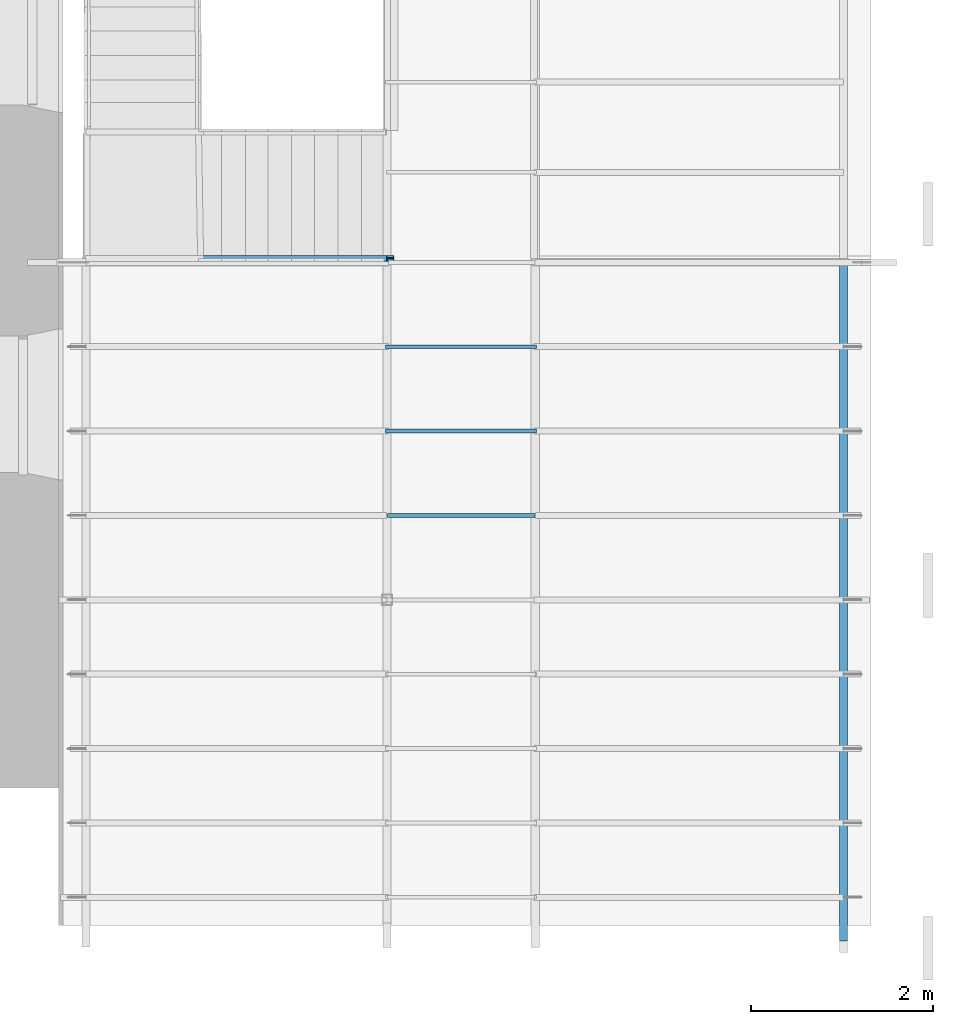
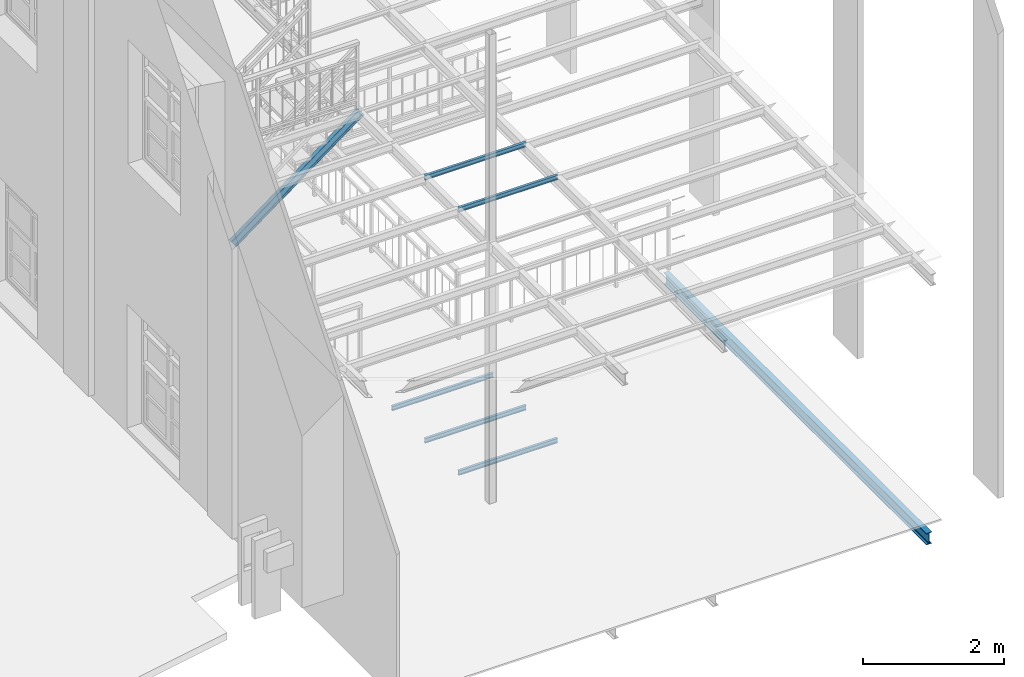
# One storey, part 7 of 33: 7 beams.
"""IFC2X3 building model written with IfcOpenShell, lengths in metres."""

from ifc_helpers import new_model, entity, si_unit, converted_unit, derived_unit, direction, frame, frame_2d, origin, place, context, subcontext, project, spatial, polyline, circle_curve, parameter, trimmed, segment, composite_curve, outline, extrude, material, type_object, element, save


model = new_model("IFC2X3")

# Units and contexts
model_context = context("Model", 3, precision=1e-05, world=origin(), true_north=direction((6.12303176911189e-17, 1.0)))
body_context = subcontext(model_context, "Body", "Model", "MODEL_VIEW")
ifc_project = project(units=[si_unit("LENGTHUNIT", "METRE"), si_unit("AREAUNIT", "SQUARE_METRE"), si_unit("VOLUMEUNIT", "CUBIC_METRE"), converted_unit("PLANEANGLEUNIT", "DEGREE", entity("IfcRatioMeasure", 0.0174532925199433), si_unit("PLANEANGLEUNIT", "RADIAN"), dimensions=[0, 0, 0, 0, 0, 0, 0]), si_unit("MASSUNIT", "GRAM", prefix="KILO"), derived_unit("MASSDENSITYUNIT", [(si_unit("MASSUNIT", "GRAM", prefix="KILO"), 1), (si_unit("LENGTHUNIT", "METRE"), -3)]), derived_unit("MOMENTOFINERTIAUNIT", [(si_unit("LENGTHUNIT", "METRE"), 4)]), si_unit("TIMEUNIT", "SECOND"), si_unit("FREQUENCYUNIT", "HERTZ"), si_unit("THERMODYNAMICTEMPERATUREUNIT", "DEGREE_CELSIUS"), derived_unit("THERMALTRANSMITTANCEUNIT", [(si_unit("MASSUNIT", "GRAM", prefix="KILO"), 1), (si_unit("THERMODYNAMICTEMPERATUREUNIT", "KELVIN"), -1), (si_unit("TIMEUNIT", "SECOND"), -3)]), derived_unit("VOLUMETRICFLOWRATEUNIT", [(si_unit("LENGTHUNIT", "METRE"), 3), (si_unit("TIMEUNIT", "SECOND"), -1)]), si_unit("ELECTRICCURRENTUNIT", "AMPERE"), si_unit("ELECTRICVOLTAGEUNIT", "VOLT"), si_unit("POWERUNIT", "WATT"), si_unit("FORCEUNIT", "NEWTON", prefix="KILO"), si_unit("ILLUMINANCEUNIT", "LUX"), si_unit("LUMINOUSFLUXUNIT", "LUMEN"), si_unit("LUMINOUSINTENSITYUNIT", "CANDELA"), derived_unit("USERDEFINED", [(si_unit("MASSUNIT", "GRAM", prefix="KILO"), -1), (si_unit("LENGTHUNIT", "METRE"), -2), (si_unit("TIMEUNIT", "SECOND"), 3), (si_unit("LUMINOUSFLUXUNIT", "LUMEN"), 1)]), derived_unit("LINEARVELOCITYUNIT", [(si_unit("LENGTHUNIT", "METRE"), 1), (si_unit("TIMEUNIT", "SECOND"), -1)]), si_unit("PRESSUREUNIT", "PASCAL"), derived_unit("USERDEFINED", [(si_unit("LENGTHUNIT", "METRE"), -2), (si_unit("MASSUNIT", "GRAM", prefix="KILO"), 1), (si_unit("TIMEUNIT", "SECOND"), -2)]), derived_unit("LINEARFORCEUNIT", [(si_unit("MASSUNIT", "GRAM", prefix="KILO"), 1), (si_unit("LENGTHUNIT", "METRE"), 1), (si_unit("TIMEUNIT", "SECOND"), -2), (si_unit("LENGTHUNIT", "METRE"), -1)]), derived_unit("PLANARFORCEUNIT", [(si_unit("MASSUNIT", "GRAM", prefix="KILO"), 1), (si_unit("LENGTHUNIT", "METRE"), 1), (si_unit("TIMEUNIT", "SECOND"), -2), (si_unit("LENGTHUNIT", "METRE"), -2)])], contexts=[model_context])

# Site, building, storey
site_placement = place(None, origin())
site = spatial("IfcSite", under=ifc_project, at=site_placement, Name="Superficie", CompositionType="ELEMENT")
building_placement = place(site_placement, origin())
building = spatial("IfcBuilding", under=site, at=building_placement, Name="Telegestiones", CompositionType="ELEMENT")
storey_placement = place(building_placement, frame((0.0, 0.0, 4.94)))
storey = spatial("IfcBuildingStorey", under=building, at=storey_placement, Name="Nivel 1_NPT", CompositionType="ELEMENT", Elevation=4.94)

# Beams
ifc_material = material(Name="Metal - Acero - 345 MPa")
beam_type_1 = type_object("IfcBeamType", Name="IPN - Secciones en I con alas cónicas:IPN 200", PredefinedType="NOTDEFINED")
beam_1_placement = place(storey_placement, frame((14.6648126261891, 1.48459406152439, 0.0), z_axis=(0.0, 0.0, 1.0), x_axis=(0.0, -1.0, 0.0)))
element("IfcBeam", 1, at=beam_1_placement, inside=storey, type_object=beam_type_1, material=ifc_material, Name="IPN - Secciones en I con alas cónicas:IPN 200", ObjectType="IPN - Secciones en I con alas cónicas:IPN 200", context=body_context, shape_type="SweptSolid", body=[
    extrude(outline(composite_curve([segment(polyline([(0.0957638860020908, -0.0450000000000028), (0.100000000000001, -0.0450000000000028)]), True, "CONTINUOUS"), segment(polyline([(0.100000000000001, -0.0450000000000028), (0.100000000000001, 0.0449999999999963)]), True, "CONTINUOUS"), segment(polyline([(0.100000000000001, 0.0449999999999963), (0.0957638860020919, 0.0449999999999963)]), True, "CONTINUOUS"), segment(trimmed(circle_curve(frame_2d((0.0957638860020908, 0.0404999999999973), x_axis=(0.0, 1.0)), 0.0044999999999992), [parameter(0.0)], [parameter(82.0303896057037)], True, "PARAMETER"), True, "CONTINUOUS"), segment(polyline([(0.0913073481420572, 0.0411239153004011), (0.0869794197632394, 0.0102101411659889)]), True, "CONTINUOUS"), segment(trimmed(circle_curve(frame_2d((0.0795518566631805, 0.0112499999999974), x_axis=(0.990341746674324, -0.138647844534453)), 0.00750000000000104), [parameter(277.969610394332)], [parameter(0.0)], True, "PARAMETER"), False, "CONTINUOUS"), segment(polyline([(0.0795518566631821, 0.00374999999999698), (-0.079551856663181, 0.00374999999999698)]), True, "CONTINUOUS"), segment(trimmed(circle_curve(frame_2d((-0.0795518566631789, 0.0112499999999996), x_axis=(0.0, -1.0)), 0.00750000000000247), [parameter(277.969610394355)], [parameter(0.0)], True, "PARAMETER"), False, "CONTINUOUS"), segment(polyline([(-0.0869794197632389, 0.0102101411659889), (-0.0913073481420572, 0.0411239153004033)]), True, "CONTINUOUS"), segment(trimmed(circle_curve(frame_2d((-0.0957638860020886, 0.0404999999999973), x_axis=(0.990341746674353, 0.138647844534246)), 0.00449999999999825), [parameter(0.0)], [parameter(82.0303896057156)], True, "PARAMETER"), True, "CONTINUOUS"), segment(polyline([(-0.0957638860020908, 0.0449999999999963), (-0.0999999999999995, 0.0449999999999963)]), True, "CONTINUOUS"), segment(polyline([(-0.0999999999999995, 0.0449999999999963), (-0.0999999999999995, -0.0450000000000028)]), True, "CONTINUOUS"), segment(polyline([(-0.0999999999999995, -0.0450000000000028), (-0.0957638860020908, -0.0450000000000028)]), True, "CONTINUOUS"), segment(trimmed(circle_curve(frame_2d((-0.0957638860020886, -0.0405000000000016), x_axis=(0.0, -1.0)), 0.00449999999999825), [parameter(0.0)], [parameter(82.0303896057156)], True, "PARAMETER"), True, "CONTINUOUS"), segment(polyline([(-0.0913073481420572, -0.0411239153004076), (-0.0869794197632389, -0.0102101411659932)]), True, "CONTINUOUS"), segment(trimmed(circle_curve(frame_2d((-0.0795518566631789, -0.0112500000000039), x_axis=(-0.990341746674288, 0.138647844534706)), 0.00750000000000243), [parameter(277.969610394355)], [parameter(0.0)], True, "PARAMETER"), False, "CONTINUOUS"), segment(polyline([(-0.079551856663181, -0.00375000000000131), (0.079551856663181, -0.00375000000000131)]), True, "CONTINUOUS"), segment(trimmed(circle_curve(frame_2d((0.0795518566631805, -0.0112500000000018), x_axis=(0.0, 1.0)), 0.00750000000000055), [parameter(277.969610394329)], [parameter(0.0)], True, "PARAMETER"), False, "CONTINUOUS"), segment(polyline([(0.0869794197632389, -0.0102101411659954), (0.0913073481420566, -0.0411239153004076)]), True, "CONTINUOUS"), segment(trimmed(circle_curve(frame_2d((0.0957638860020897, -0.0405000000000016), x_axis=(-0.990341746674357, -0.138647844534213)), 0.00449999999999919), [parameter(0.0)], [parameter(82.0303896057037)], True, "PARAMETER"), True, "CONTINUOUS")], self_intersect=False)), frame((0.00299999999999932, 0.0, -0.130000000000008), z_axis=(1.0, 0.0, 0.0), x_axis=(0.0, 0.0, -1.0)), (0.0, 0.0, 1.0), 7.459),
])
beam_type_2 = type_object("IfcBeamType", Name="IPN - Secciones en I con alas cónicas:IPN 140", PredefinedType="NOTDEFINED")
beam_2_placement = place(storey_placement, frame((7.5725843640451, 1.52934260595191, 2.98941250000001), z_axis=(-0.596375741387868, 0.0, 0.802705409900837), x_axis=(0.802705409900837, 0.0, 0.596375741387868)))
element("IfcBeam", 2, at=beam_2_placement, inside=storey, type_object=beam_type_2, material=ifc_material, Name="IPN - Secciones en I con alas cónicas:IPN 140", ObjectType="IPN - Secciones en I con alas cónicas:IPN 140", context=body_context, shape_type="SweptSolid", body=[
    extrude(outline(composite_curve([segment(polyline([(0.0666671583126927, -0.0329999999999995), (0.0700000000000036, -0.0329999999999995)]), True, "CONTINUOUS"), segment(polyline([(0.0700000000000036, -0.0329999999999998), (0.0700000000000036, 0.0329999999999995)]), True, "CONTINUOUS"), segment(polyline([(0.0700000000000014, 0.0329999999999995), (0.0666671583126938, 0.0329999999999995)]), True, "CONTINUOUS"), segment(trimmed(circle_curve(frame_2d((0.0666671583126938, 0.0295999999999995), x_axis=(0.0, 1.0)), 0.0033999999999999), [parameter(0.0)], [parameter(82.0303896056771)], True, "PARAMETER"), True, "CONTINUOUS"), segment(polyline([(0.0632999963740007, 0.0300714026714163), (0.0601763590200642, 0.00775970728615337)]), True, "CONTINUOUS"), segment(trimmed(circle_curve(frame_2d((0.0545314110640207, 0.00854999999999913), x_axis=(0.990341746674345, -0.138647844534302)), 0.00569999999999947), [parameter(277.969610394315)], [parameter(0.0)], True, "PARAMETER"), False, "CONTINUOUS"), segment(polyline([(0.0545314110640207, 0.00284999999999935), (-0.0545314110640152, 0.00284999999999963)]), True, "CONTINUOUS"), segment(trimmed(circle_curve(frame_2d((-0.0545314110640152, 0.00854999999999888), x_axis=(0.0, -1.0)), 0.00569999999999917), [parameter(277.969610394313)], [parameter(0.0)], True, "PARAMETER"), False, "CONTINUOUS"), segment(polyline([(-0.0601763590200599, 0.00775970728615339), (-0.0632999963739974, 0.0300714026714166)]), True, "CONTINUOUS"), segment(trimmed(circle_curve(frame_2d((-0.0666671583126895, 0.0295999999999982), x_axis=(0.99034174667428, 0.138647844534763)), 0.00340000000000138), [parameter(0.0)], [parameter(82.0303896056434)], True, "PARAMETER"), True, "CONTINUOUS"), segment(polyline([(-0.0666671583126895, 0.0329999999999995), (-0.0699999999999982, 0.0329999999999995)]), True, "CONTINUOUS"), segment(polyline([(-0.0699999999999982, 0.0329999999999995), (-0.0699999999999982, -0.0329999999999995)]), True, "CONTINUOUS"), segment(polyline([(-0.0699999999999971, -0.0329999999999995), (-0.0666671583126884, -0.0329999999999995)]), True, "CONTINUOUS"), segment(trimmed(circle_curve(frame_2d((-0.0666671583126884, -0.0295999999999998), x_axis=(0.0, -1.0)), 0.00339999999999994), [parameter(0.0)], [parameter(82.0303896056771)], True, "PARAMETER"), True, "CONTINUOUS"), segment(polyline([(-0.0632999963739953, -0.0300714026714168), (-0.0601763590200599, -0.00775970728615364)]), True, "CONTINUOUS"), segment(trimmed(circle_curve(frame_2d((-0.0545314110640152, -0.00854999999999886), x_axis=(-0.990341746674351, 0.138647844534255)), 0.00569999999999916), [parameter(277.969610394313)], [parameter(0.0)], True, "PARAMETER"), False, "CONTINUOUS"), segment(polyline([(-0.0545314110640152, -0.00284999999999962), (0.0545314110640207, -0.00284999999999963)]), True, "CONTINUOUS"), segment(trimmed(circle_curve(frame_2d((0.0545314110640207, -0.00854999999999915), x_axis=(0.0, 1.0)), 0.00569999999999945), [parameter(277.969610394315)], [parameter(0.0)], True, "PARAMETER"), False, "CONTINUOUS"), segment(polyline([(0.0601763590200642, -0.00775970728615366), (0.0632999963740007, -0.0300714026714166)]), True, "CONTINUOUS"), segment(trimmed(circle_curve(frame_2d((0.0666671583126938, -0.0295999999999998), x_axis=(-0.990341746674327, -0.138647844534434)), 0.00339999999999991), [parameter(0.0)], [parameter(82.0303896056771)], True, "PARAMETER"), True, "CONTINUOUS")], self_intersect=False)), frame((-0.0385801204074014, 0.0, -0.0700000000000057), z_axis=(1.0, 0.0, 0.0), x_axis=(0.0, 0.0, -1.0)), (0.0, 0.0, 1.0), 2.61373790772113),
])
beam_type_3 = type_object("IfcBeamType", Name="IPN - Secciones en I con alas cónicas:IPN 80", PredefinedType="NOTDEFINED")
beam_3_placement = place(storey_placement, frame((9.64481262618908, 0.556847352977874, 0.0)))
element("IfcBeam", 3, at=beam_3_placement, inside=storey, type_object=beam_type_3, material=ifc_material, Name="IPN - Secciones en I con alas cónicas:IPN 80", ObjectType="IPN - Secciones en I con alas cónicas:IPN 80", context=body_context, shape_type="SweptSolid", body=[
    extrude(outline(composite_curve([segment(polyline([(0.0375704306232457, -0.0210000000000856), (0.0399999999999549, -0.0210000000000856)]), True, "CONTINUOUS"), segment(polyline([(0.0399999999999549, -0.0210000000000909), (0.0400000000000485, 0.0209999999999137)]), True, "CONTINUOUS"), segment(polyline([(0.0400000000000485, 0.0209999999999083), (0.0375704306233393, 0.0209999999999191)]), True, "CONTINUOUS"), segment(trimmed(circle_curve(frame_2d((0.0375704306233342, 0.0186999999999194), x_axis=(0.0, 1.0)), 0.00229999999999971), [parameter(0.0)], [parameter(82.030389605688)], True, "PARAMETER"), True, "CONTINUOUS"), segment(polyline([(0.0352926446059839, 0.019018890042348), (0.0333732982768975, 0.00530927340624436)]), True, "CONTINUOUS"), segment(trimmed(circle_curve(frame_2d((0.029510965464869, 0.00584999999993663), x_axis=(0.990341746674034, -0.138647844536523)), 0.00389999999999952), [parameter(277.969610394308)], [parameter(0.0)], True, "PARAMETER"), False, "CONTINUOUS"), segment(polyline([(0.0295109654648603, 0.00194999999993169), (-0.0295109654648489, 0.00195000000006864)]), True, "CONTINUOUS"), segment(trimmed(circle_curve(frame_2d((-0.0295109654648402, 0.00585000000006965), x_axis=(0.0, -1.0)), 0.00390000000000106), [parameter(277.969610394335)], [parameter(0.0)], True, "PARAMETER"), False, "CONTINUOUS"), segment(polyline([(-0.0333732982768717, 0.00530927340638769), (-0.035292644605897, 0.0190188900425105)]), True, "CONTINUOUS"), segment(trimmed(circle_curve(frame_2d((-0.0375704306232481, 0.0187000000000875), x_axis=(0.990341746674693, 0.138647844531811)), 0.00229999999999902), [parameter(0.0)], [parameter(82.0303896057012)], True, "PARAMETER"), True, "CONTINUOUS"), segment(polyline([(-0.037570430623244, 0.0210000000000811), (-0.0399999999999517, 0.0210000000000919)]), True, "CONTINUOUS"), segment(polyline([(-0.0399999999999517, 0.0210000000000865), (-0.0400000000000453, -0.0209999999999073)]), True, "CONTINUOUS"), segment(polyline([(-0.0400000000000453, -0.0209999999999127), (-0.0375704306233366, -0.0209999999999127)]), True, "CONTINUOUS"), segment(trimmed(circle_curve(frame_2d((-0.0375704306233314, -0.0186999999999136), x_axis=(0.0, -1.0)), 0.00229999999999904), [parameter(0.0)], [parameter(82.0303896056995)], True, "PARAMETER"), True, "CONTINUOUS"), segment(polyline([(-0.0352926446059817, -0.0190188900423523), (-0.0333732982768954, -0.00530927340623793)]), True, "CONTINUOUS"), segment(trimmed(circle_curve(frame_2d((-0.0295109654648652, -0.00584999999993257), x_axis=(-0.990341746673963, 0.138647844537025)), 0.00390000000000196), [parameter(277.969610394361)], [parameter(0.0)], True, "PARAMETER"), False, "CONTINUOUS"), segment(polyline([(-0.0295109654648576, -0.00194999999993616), (0.0295109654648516, -0.00195000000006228)]), True, "CONTINUOUS"), segment(trimmed(circle_curve(frame_2d((0.0295109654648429, -0.00585000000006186), x_axis=(0.0, 1.0)), 0.0038999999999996), [parameter(277.969610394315)], [parameter(0.0)], True, "PARAMETER"), False, "CONTINUOUS"), segment(polyline([(0.0333732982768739, -0.00530927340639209), (0.0352926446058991, -0.0190188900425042)]), True, "CONTINUOUS"), segment(trimmed(circle_curve(frame_2d((0.0375704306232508, -0.0187000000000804), x_axis=(-0.990341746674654, -0.138647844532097)), 0.00229999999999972), [parameter(0.0)], [parameter(82.0303896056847)], True, "PARAMETER"), True, "CONTINUOUS")], self_intersect=False)), frame((-0.0149999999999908, 0.0, -0.0700000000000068), z_axis=(1.0, 0.0, 0.0), x_axis=(0.0, 0.0, -1.0)), (0.0, 0.0, 1.0), 1.66),
])
beam_4_placement = place(storey_placement, frame((9.64481262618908, -0.370899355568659, 0.0)))
element("IfcBeam", 4, at=beam_4_placement, inside=storey, type_object=beam_type_3, material=ifc_material, Name="IPN - Secciones en I con alas cónicas:IPN 80", ObjectType="IPN - Secciones en I con alas cónicas:IPN 80", context=body_context, shape_type="SweptSolid", body=[
    extrude(outline(composite_curve([segment(polyline([(0.0375704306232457, -0.0210000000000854), (0.0399999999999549, -0.0210000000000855)]), True, "CONTINUOUS"), segment(polyline([(0.0399999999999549, -0.0210000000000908), (0.0400000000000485, 0.0209999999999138)]), True, "CONTINUOUS"), segment(polyline([(0.0400000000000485, 0.0209999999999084), (0.0375704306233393, 0.0209999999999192)]), True, "CONTINUOUS"), segment(trimmed(circle_curve(frame_2d((0.0375704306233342, 0.0186999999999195), x_axis=(0.0, 1.0)), 0.00229999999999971), [parameter(0.0)], [parameter(82.030389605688)], True, "PARAMETER"), True, "CONTINUOUS"), segment(polyline([(0.0352926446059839, 0.0190188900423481), (0.0333732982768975, 0.00530927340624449)]), True, "CONTINUOUS"), segment(trimmed(circle_curve(frame_2d((0.029510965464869, 0.00584999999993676), x_axis=(0.990341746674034, -0.138647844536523)), 0.00389999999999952), [parameter(277.969610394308)], [parameter(0.0)], True, "PARAMETER"), False, "CONTINUOUS"), segment(polyline([(0.0295109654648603, 0.00194999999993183), (-0.0295109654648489, 0.00195000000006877)]), True, "CONTINUOUS"), segment(trimmed(circle_curve(frame_2d((-0.0295109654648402, 0.00585000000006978), x_axis=(0.0, -1.0)), 0.00390000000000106), [parameter(277.969610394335)], [parameter(0.0)], True, "PARAMETER"), False, "CONTINUOUS"), segment(polyline([(-0.0333732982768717, 0.00530927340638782), (-0.035292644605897, 0.0190188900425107)]), True, "CONTINUOUS"), segment(trimmed(circle_curve(frame_2d((-0.0375704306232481, 0.0187000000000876), x_axis=(0.990341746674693, 0.138647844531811)), 0.00229999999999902), [parameter(0.0)], [parameter(82.0303896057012)], True, "PARAMETER"), True, "CONTINUOUS"), segment(polyline([(-0.037570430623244, 0.0210000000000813), (-0.0399999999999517, 0.0210000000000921)]), True, "CONTINUOUS"), segment(polyline([(-0.0399999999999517, 0.0210000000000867), (-0.0400000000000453, -0.0209999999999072)]), True, "CONTINUOUS"), segment(polyline([(-0.0400000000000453, -0.0209999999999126), (-0.0375704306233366, -0.0209999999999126)]), True, "CONTINUOUS"), segment(trimmed(circle_curve(frame_2d((-0.0375704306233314, -0.0186999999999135), x_axis=(0.0, -1.0)), 0.00229999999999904), [parameter(0.0)], [parameter(82.0303896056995)], True, "PARAMETER"), True, "CONTINUOUS"), segment(polyline([(-0.0352926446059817, -0.0190188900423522), (-0.0333732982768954, -0.00530927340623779)]), True, "CONTINUOUS"), segment(trimmed(circle_curve(frame_2d((-0.0295109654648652, -0.00584999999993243), x_axis=(-0.990341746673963, 0.138647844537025)), 0.00390000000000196), [parameter(277.969610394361)], [parameter(0.0)], True, "PARAMETER"), False, "CONTINUOUS"), segment(polyline([(-0.0295109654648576, -0.00194999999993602), (0.0295109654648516, -0.00195000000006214)]), True, "CONTINUOUS"), segment(trimmed(circle_curve(frame_2d((0.0295109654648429, -0.0058500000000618), x_axis=(0.0, 1.0)), 0.00389999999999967), [parameter(277.969610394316)], [parameter(0.0)], True, "PARAMETER"), False, "CONTINUOUS"), segment(polyline([(0.0333732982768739, -0.00530927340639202), (0.0352926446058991, -0.0190188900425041)]), True, "CONTINUOUS"), segment(trimmed(circle_curve(frame_2d((0.0375704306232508, -0.0187000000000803), x_axis=(-0.990341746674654, -0.138647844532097)), 0.00229999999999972), [parameter(0.0)], [parameter(82.0303896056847)], True, "PARAMETER"), True, "CONTINUOUS")], self_intersect=False)), frame((-0.0149999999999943, 0.0, -0.0700000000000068), z_axis=(1.0, 0.0, 0.0), x_axis=(0.0, 0.0, -1.0)), (0.0, 0.0, 1.0), 1.66),
])
beam_5_placement = place(storey_placement, frame((9.64481262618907, -1.29864606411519, 0.0)))
element("IfcBeam", 5, at=beam_5_placement, inside=storey, type_object=beam_type_3, material=ifc_material, Name="IPN - Secciones en I con alas cónicas:IPN 80", ObjectType="IPN - Secciones en I con alas cónicas:IPN 80", context=body_context, shape_type="SweptSolid", body=[
    extrude(outline(composite_curve([segment(polyline([(0.037570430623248, -0.021000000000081), (0.0399999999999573, -0.021000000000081)]), True, "CONTINUOUS"), segment(polyline([(0.0399999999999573, -0.0210000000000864), (0.0400000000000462, 0.0209999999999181)]), True, "CONTINUOUS"), segment(polyline([(0.0400000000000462, 0.020999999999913), (0.0375704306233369, 0.0209999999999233)]), True, "CONTINUOUS"), segment(trimmed(circle_curve(frame_2d((0.0375704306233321, 0.0186999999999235), x_axis=(0.0, 1.0)), 0.00229999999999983), [parameter(0.0)], [parameter(82.030389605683)], True, "PARAMETER"), True, "CONTINUOUS"), segment(polyline([(0.0352926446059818, 0.0190188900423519), (0.0333732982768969, 0.00530927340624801)]), True, "CONTINUOUS"), segment(trimmed(circle_curve(frame_2d((0.0295109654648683, 0.00584999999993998), x_axis=(0.990341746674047, -0.138647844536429)), 0.0038999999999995), [parameter(277.969610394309)], [parameter(0.0)], True, "PARAMETER"), False, "CONTINUOUS"), segment(polyline([(0.0295109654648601, 0.00194999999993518), (-0.0295109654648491, 0.00195000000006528)]), True, "CONTINUOUS"), segment(trimmed(circle_curve(frame_2d((-0.0295109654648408, 0.00585000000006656), x_axis=(0.0, -1.0)), 0.00390000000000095), [parameter(277.969610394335)], [parameter(0.0)], True, "PARAMETER"), False, "CONTINUOUS"), segment(polyline([(-0.0333732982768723, 0.00530927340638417), (-0.0352926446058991, 0.0190188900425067)]), True, "CONTINUOUS"), segment(trimmed(circle_curve(frame_2d((-0.0375704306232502, 0.0187000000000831), x_axis=(0.990341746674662, 0.138647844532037)), 0.00229999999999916), [parameter(0.0)], [parameter(82.0303896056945)], True, "PARAMETER"), True, "CONTINUOUS"), segment(polyline([(-0.0375704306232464, 0.0210000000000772), (-0.039999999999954, 0.0210000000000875)]), True, "CONTINUOUS"), segment(polyline([(-0.039999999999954, 0.0210000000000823), (-0.0400000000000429, -0.0209999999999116)]), True, "CONTINUOUS"), segment(polyline([(-0.0400000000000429, -0.0209999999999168), (-0.0375704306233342, -0.0209999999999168)]), True, "CONTINUOUS"), segment(trimmed(circle_curve(frame_2d((-0.0375704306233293, -0.0186999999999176), x_axis=(0.0, -1.0)), 0.00229999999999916), [parameter(0.0)], [parameter(82.0303896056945)], True, "PARAMETER"), True, "CONTINUOUS"), segment(polyline([(-0.0352926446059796, -0.0190188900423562), (-0.0333732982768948, -0.00530927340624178)]), True, "CONTINUOUS"), segment(trimmed(circle_curve(frame_2d((-0.0295109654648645, -0.00584999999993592), x_axis=(-0.990341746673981, 0.138647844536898)), 0.00390000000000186), [parameter(277.96961039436)], [parameter(0.0)], True, "PARAMETER"), False, "CONTINUOUS"), segment(polyline([(-0.0295109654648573, -0.00194999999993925), (0.0295109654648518, -0.00195000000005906)]), True, "CONTINUOUS"), segment(trimmed(circle_curve(frame_2d((0.0295109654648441, -0.00585000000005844), x_axis=(0.0, 1.0)), 0.00389999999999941), [parameter(277.969610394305)], [parameter(0.0)], True, "PARAMETER"), False, "CONTINUOUS"), segment(polyline([(0.0333732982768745, -0.00530927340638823), (0.0352926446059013, -0.0190188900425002)]), True, "CONTINUOUS"), segment(trimmed(circle_curve(frame_2d((0.0375704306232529, -0.0187000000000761), x_axis=(-0.990341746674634, -0.138647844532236)), 0.00229999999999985), [parameter(0.0)], [parameter(82.030389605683)], True, "PARAMETER"), True, "CONTINUOUS")], self_intersect=False)), frame((0.0040000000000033, 0.0, -0.0700000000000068), z_axis=(1.0, 0.0, 0.0), x_axis=(0.0, 0.0, -1.0)), (0.0, 0.0, 1.0), 1.622),
])
beam_6_placement = place(storey_placement, frame((9.64481262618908, -0.370899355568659, 4.56)))
element("IfcBeam", 6, at=beam_6_placement, inside=storey, type_object=beam_type_3, material=ifc_material, Name="IPN - Secciones en I con alas cónicas:IPN 80", ObjectType="IPN - Secciones en I con alas cónicas:IPN 80", context=body_context, shape_type="SweptSolid", body=[
    extrude(outline(composite_curve([segment(polyline([(0.0375704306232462, -0.0210000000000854), (0.0399999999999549, -0.0210000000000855)]), True, "CONTINUOUS"), segment(polyline([(0.0399999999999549, -0.0210000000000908), (0.0400000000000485, 0.0209999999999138)]), True, "CONTINUOUS"), segment(polyline([(0.0400000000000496, 0.0209999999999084), (0.0375704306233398, 0.0209999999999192)]), True, "CONTINUOUS"), segment(trimmed(circle_curve(frame_2d((0.0375704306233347, 0.0186999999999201), x_axis=(0.0, 1.0)), 0.00229999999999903), [parameter(0.0)], [parameter(82.0303896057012)], True, "PARAMETER"), True, "CONTINUOUS"), segment(polyline([(0.035292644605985, 0.0190188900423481), (0.0333732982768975, 0.00530927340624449)]), True, "CONTINUOUS"), segment(trimmed(circle_curve(frame_2d((0.0295109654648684, 0.00584999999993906), x_axis=(0.990341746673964, -0.138647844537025)), 0.00390000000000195), [parameter(277.969610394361)], [parameter(0.0)], True, "PARAMETER"), False, "CONTINUOUS"), segment(polyline([(0.0295109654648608, 0.00194999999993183), (-0.0295109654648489, 0.00195000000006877)]), True, "CONTINUOUS"), segment(trimmed(circle_curve(frame_2d((-0.0295109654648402, 0.00585000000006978), x_axis=(0.0, -1.0)), 0.00390000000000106), [parameter(277.969610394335)], [parameter(0.0)], True, "PARAMETER"), False, "CONTINUOUS"), segment(polyline([(-0.0333732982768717, 0.00530927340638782), (-0.035292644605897, 0.0190188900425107)]), True, "CONTINUOUS"), segment(trimmed(circle_curve(frame_2d((-0.0375704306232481, 0.0187000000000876), x_axis=(0.990341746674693, 0.138647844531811)), 0.00229999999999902), [parameter(0.0)], [parameter(82.0303896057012)], True, "PARAMETER"), True, "CONTINUOUS"), segment(polyline([(-0.037570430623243, 0.0210000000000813), (-0.0399999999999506, 0.0210000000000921)]), True, "CONTINUOUS"), segment(polyline([(-0.0399999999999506, 0.0210000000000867), (-0.0400000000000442, -0.0209999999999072)]), True, "CONTINUOUS"), segment(polyline([(-0.0400000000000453, -0.0209999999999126), (-0.0375704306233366, -0.0209999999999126)]), True, "CONTINUOUS"), segment(trimmed(circle_curve(frame_2d((-0.0375704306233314, -0.0186999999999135), x_axis=(0.0, -1.0)), 0.00229999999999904), [parameter(0.0)], [parameter(82.0303896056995)], True, "PARAMETER"), True, "CONTINUOUS"), segment(polyline([(-0.0352926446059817, -0.0190188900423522), (-0.0333732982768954, -0.00530927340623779)]), True, "CONTINUOUS"), segment(trimmed(circle_curve(frame_2d((-0.0295109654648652, -0.00584999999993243), x_axis=(-0.990341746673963, 0.138647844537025)), 0.00390000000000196), [parameter(277.969610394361)], [parameter(0.0)], True, "PARAMETER"), False, "CONTINUOUS"), segment(polyline([(-0.0295109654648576, -0.00194999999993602), (0.0295109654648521, -0.00195000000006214)]), True, "CONTINUOUS"), segment(trimmed(circle_curve(frame_2d((0.0295109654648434, -0.00585000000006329), x_axis=(0.0, 1.0)), 0.0039000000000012), [parameter(277.969610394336)], [parameter(0.0)], True, "PARAMETER"), False, "CONTINUOUS"), segment(polyline([(0.0333732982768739, -0.00530927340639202), (0.0352926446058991, -0.0190188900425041)]), True, "CONTINUOUS"), segment(trimmed(circle_curve(frame_2d((0.0375704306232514, -0.018700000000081), x_axis=(-0.990341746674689, -0.13864784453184)), 0.00229999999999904), [parameter(0.0)], [parameter(82.0303896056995)], True, "PARAMETER"), True, "CONTINUOUS")], self_intersect=False)), frame((-0.0149999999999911, 0.0, -0.0700000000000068), z_axis=(1.0, 0.0, 0.0), x_axis=(0.0, 0.0, -1.0)), (0.0, 0.0, 1.0), 1.66),
])
beam_7_placement = place(storey_placement, frame((9.64481262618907, -1.29864606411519, 4.56)))
element("IfcBeam", 7, at=beam_7_placement, inside=storey, type_object=beam_type_3, material=ifc_material, Name="IPN - Secciones en I con alas cónicas:IPN 80", ObjectType="IPN - Secciones en I con alas cónicas:IPN 80", context=body_context, shape_type="SweptSolid", body=[
    extrude(outline(composite_curve([segment(polyline([(0.0375704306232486, -0.021000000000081), (0.0399999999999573, -0.021000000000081)]), True, "CONTINUOUS"), segment(polyline([(0.0399999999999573, -0.0210000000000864), (0.0400000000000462, 0.0209999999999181)]), True, "CONTINUOUS"), segment(polyline([(0.0400000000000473, 0.020999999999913), (0.0375704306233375, 0.0209999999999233)]), True, "CONTINUOUS"), segment(trimmed(circle_curve(frame_2d((0.0375704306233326, 0.0186999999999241), x_axis=(0.0, 1.0)), 0.00229999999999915), [parameter(0.0)], [parameter(82.0303896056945)], True, "PARAMETER"), True, "CONTINUOUS"), segment(polyline([(0.0352926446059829, 0.0190188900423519), (0.0333732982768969, 0.00530927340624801)]), True, "CONTINUOUS"), segment(trimmed(circle_curve(frame_2d((0.0295109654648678, 0.00584999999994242), x_axis=(0.990341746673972, -0.138647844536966)), 0.00390000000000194), [parameter(277.969610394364)], [parameter(0.0)], True, "PARAMETER"), False, "CONTINUOUS"), segment(polyline([(0.0295109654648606, 0.00194999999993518), (-0.0295109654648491, 0.00195000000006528)]), True, "CONTINUOUS"), segment(trimmed(circle_curve(frame_2d((-0.0295109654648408, 0.00585000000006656), x_axis=(0.0, -1.0)), 0.00390000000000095), [parameter(277.969610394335)], [parameter(0.0)], True, "PARAMETER"), False, "CONTINUOUS"), segment(polyline([(-0.0333732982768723, 0.00530927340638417), (-0.0352926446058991, 0.0190188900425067)]), True, "CONTINUOUS"), segment(trimmed(circle_curve(frame_2d((-0.0375704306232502, 0.0187000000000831), x_axis=(0.990341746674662, 0.138647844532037)), 0.00229999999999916), [parameter(0.0)], [parameter(82.0303896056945)], True, "PARAMETER"), True, "CONTINUOUS"), segment(polyline([(-0.0375704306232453, 0.0210000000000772), (-0.0399999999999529, 0.0210000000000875)]), True, "CONTINUOUS"), segment(polyline([(-0.0399999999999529, 0.0210000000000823), (-0.0400000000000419, -0.0209999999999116)]), True, "CONTINUOUS"), segment(polyline([(-0.0400000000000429, -0.0209999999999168), (-0.0375704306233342, -0.0209999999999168)]), True, "CONTINUOUS"), segment(trimmed(circle_curve(frame_2d((-0.0375704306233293, -0.0186999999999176), x_axis=(0.0, -1.0)), 0.00229999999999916), [parameter(0.0)], [parameter(82.0303896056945)], True, "PARAMETER"), True, "CONTINUOUS"), segment(polyline([(-0.0352926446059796, -0.0190188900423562), (-0.0333732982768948, -0.00530927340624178)]), True, "CONTINUOUS"), segment(trimmed(circle_curve(frame_2d((-0.0295109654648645, -0.00584999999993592), x_axis=(-0.990341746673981, 0.138647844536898)), 0.00390000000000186), [parameter(277.96961039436)], [parameter(0.0)], True, "PARAMETER"), False, "CONTINUOUS"), segment(polyline([(-0.0295109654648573, -0.00194999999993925), (0.0295109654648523, -0.00195000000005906)]), True, "CONTINUOUS"), segment(trimmed(circle_curve(frame_2d((0.0295109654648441, -0.00585000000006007), x_axis=(0.0, 1.0)), 0.00390000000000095), [parameter(277.969610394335)], [parameter(0.0)], True, "PARAMETER"), False, "CONTINUOUS"), segment(polyline([(0.0333732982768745, -0.00530927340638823), (0.0352926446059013, -0.0190188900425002)]), True, "CONTINUOUS"), segment(trimmed(circle_curve(frame_2d((0.0375704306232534, -0.0187000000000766), x_axis=(-0.990341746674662, -0.138647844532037)), 0.00229999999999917), [parameter(0.0)], [parameter(82.0303896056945)], True, "PARAMETER"), True, "CONTINUOUS")], self_intersect=False)), frame((0.0040000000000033, 0.0, -0.0700000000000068), z_axis=(1.0, 0.0, 0.0), x_axis=(0.0, 0.0, -1.0)), (0.0, 0.0, 1.0), 1.622),
])

save(model, "model.ifc")
